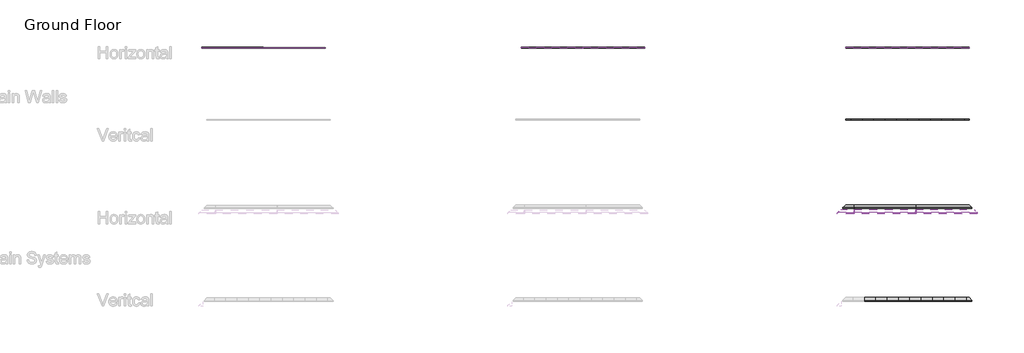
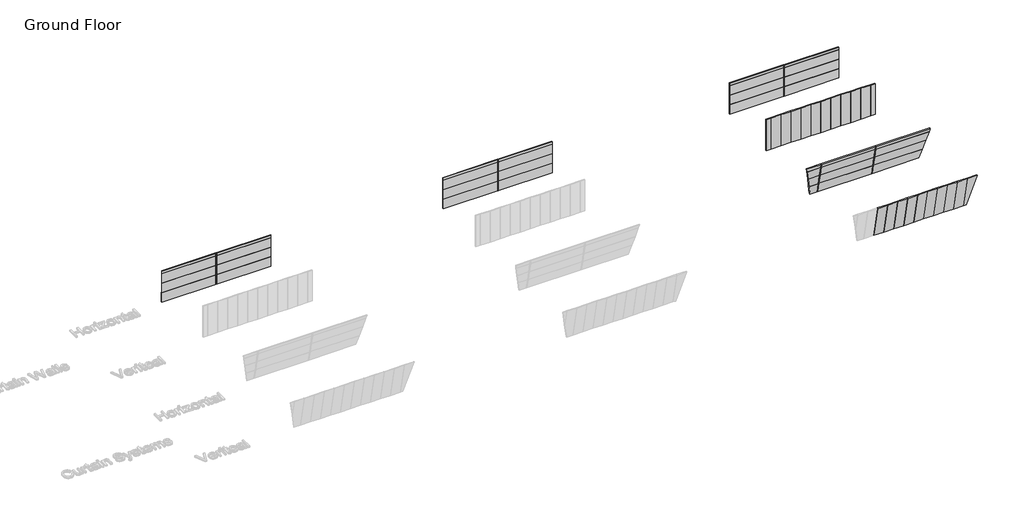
# One storey, part 2 of 8: 58 plates, 20 members.
"""IFC4 building model written with IfcOpenShell, lengths in millimetres."""

from ifc_helpers import new_model, si_unit, origin, place, context, project, spatial, transform, mapped, element, save
from components import rectangular_mullion_pi_mullion_20gap_50depth_70width_047f249b, rectangular_mullion_pi_mullion_20gap_50depth_70width_36eb7031, rectangular_mullion_pi_mullion_20gap_50depth_70width_d86b8fff, rectangular_mullion_pi_mullion_20gap_50depth_70width_81056362, system_panel_8846c3d6, system_panel_697a2945, system_panel_100212cb, system_panel_b5fc7392, system_panel_95cb4938, system_panel_555d0246, system_panel_780dca66, system_panel_5fcba945, system_panel_d5a0d648, system_panel_6c35d96b, system_panel_ded49ce0, system_panel_219c2210, system_panel_4048a440, system_panel_23496e82, system_panel_d2bda2eb, system_panel_ad9feff3, system_panel_d0f74044, system_panel_ee7158d6, system_panel_cab4ce0a, system_panel_4289257d

model = new_model("IFC4")

# Units and contexts
model_context = context("Model", 3, world=origin())
ifc_project = project(units=[si_unit("LENGTHUNIT", "METRE", prefix="MILLI")], contexts=[model_context])

# Site, building, storey
site = spatial("IfcSite", under=ifc_project)
building = spatial("IfcBuilding", under=site)
storey = spatial("IfcBuildingStorey", under=building, Name="Ground Floor", Elevation=0.0)

# Members
placement = place(None, origin())
rectangular_mullion_pi_mullion_20gap_50depth_70width_shape = rectangular_mullion_pi_mullion_20gap_50depth_70width_047f249b(model_context)
element("IfcMember", 1, ObjectType="Rectangular Mullion : PI-Mullion - 20Gap-50Depth-70Width", at=placement, inside=storey, context=model_context, shape_type="MappedRepresentation", body=[
    mapped(rectangular_mullion_pi_mullion_20gap_50depth_70width_shape, transform((17002.466571, 4866.6714822, 0.0), x_axis=(1.0, 0.0, 0.0), y_axis=(0.0, -1.0, 0.0), z_axis=(0.0, 0.0, -1.0))),
])
element("IfcMember", 2, ObjectType="Rectangular Mullion : PI-Mullion - 20Gap-50Depth-70Width", at=placement, inside=storey, context=model_context, shape_type="MappedRepresentation", body=[
    mapped(rectangular_mullion_pi_mullion_20gap_50depth_70width_shape, transform((-14497.533429, 4866.6714822, 0.0), x_axis=(1.0, 0.0, 0.0), y_axis=(0.0, -1.0, 0.0), z_axis=(0.0, 0.0, -1.0))),
])
element("IfcMember", 3, ObjectType="Rectangular Mullion : PI-Mullion - 20Gap-50Depth-70Width", at=placement, inside=storey, context=model_context, shape_type="MappedRepresentation", body=[
    mapped(rectangular_mullion_pi_mullion_20gap_50depth_70width_shape, transform((-45497.533429, 4866.6714822, 0.0), x_axis=(1.0, 0.0, 0.0), y_axis=(0.0, -1.0, 0.0), z_axis=(0.0, 0.0, -1.0))),
])
element("IfcMember", 4, ObjectType="Rectangular Mullion : PI-Mullion - 20Gap-50Depth-70Width", at=placement, inside=storey, context=model_context, shape_type="MappedRepresentation", body=[
    mapped(rectangular_mullion_pi_mullion_20gap_50depth_70width_shape, transform((17002.466571, 4866.6714822, 1100.0), x_axis=(1.0, 0.0, 0.0), y_axis=(0.0, -1.0, 0.0), z_axis=(0.0, 0.0, -1.0))),
])
element("IfcMember", 5, ObjectType="Rectangular Mullion : PI-Mullion - 20Gap-50Depth-70Width", at=placement, inside=storey, context=model_context, shape_type="MappedRepresentation", body=[
    mapped(rectangular_mullion_pi_mullion_20gap_50depth_70width_shape, transform((17002.466571, 4866.6714822, 2200.0), x_axis=(1.0, 0.0, 0.0), y_axis=(0.0, -1.0, 0.0), z_axis=(0.0, 0.0, -1.0))),
])
element("IfcMember", 6, ObjectType="Rectangular Mullion : PI-Mullion - 20Gap-50Depth-70Width", at=placement, inside=storey, context=model_context, shape_type="MappedRepresentation", body=[
    mapped(rectangular_mullion_pi_mullion_20gap_50depth_70width_shape, transform((-14497.533429, 4866.6714822, 1100.0), x_axis=(1.0, 0.0, 0.0), y_axis=(0.0, -1.0, 0.0), z_axis=(0.0, 0.0, -1.0))),
])
element("IfcMember", 7, ObjectType="Rectangular Mullion : PI-Mullion - 20Gap-50Depth-70Width", at=placement, inside=storey, context=model_context, shape_type="MappedRepresentation", body=[
    mapped(rectangular_mullion_pi_mullion_20gap_50depth_70width_shape, transform((-14497.533429, 4866.6714822, 2200.0), x_axis=(1.0, 0.0, 0.0), y_axis=(0.0, -1.0, 0.0), z_axis=(0.0, 0.0, -1.0))),
])
element("IfcMember", 8, ObjectType="Rectangular Mullion : PI-Mullion - 20Gap-50Depth-70Width", at=placement, inside=storey, context=model_context, shape_type="MappedRepresentation", body=[
    mapped(rectangular_mullion_pi_mullion_20gap_50depth_70width_shape, transform((-45497.533429, 4866.6714822, 1100.0), x_axis=(1.0, 0.0, 0.0), y_axis=(0.0, -1.0, 0.0), z_axis=(0.0, 0.0, -1.0))),
])
element("IfcMember", 9, ObjectType="Rectangular Mullion : PI-Mullion - 20Gap-50Depth-70Width", at=placement, inside=storey, context=model_context, shape_type="MappedRepresentation", body=[
    mapped(rectangular_mullion_pi_mullion_20gap_50depth_70width_shape, transform((-45497.533429, 4866.6714822, 2200.0), x_axis=(1.0, 0.0, 0.0), y_axis=(0.0, -1.0, 0.0), z_axis=(0.0, 0.0, -1.0))),
])
rectangular_mullion_pi_mullion_20gap_50depth_70width_2_shape = rectangular_mullion_pi_mullion_20gap_50depth_70width_36eb7031(model_context)
element("IfcMember", 10, ObjectType="Rectangular Mullion : PI-Mullion - 20Gap-50Depth-70Width", at=placement, inside=storey, context=model_context, shape_type="MappedRepresentation", body=[
    mapped(rectangular_mullion_pi_mullion_20gap_50depth_70width_2_shape, transform((-45497.533429, 4866.6714822, 3300.0), x_axis=(1.0, 0.0, 0.0), y_axis=(0.0, -1.0, 0.0), z_axis=(0.0, 0.0, -1.0))),
])
element("IfcMember", 11, ObjectType="Rectangular Mullion : PI-Mullion - 20Gap-50Depth-70Width", at=placement, inside=storey, context=model_context, shape_type="MappedRepresentation", body=[
    mapped(rectangular_mullion_pi_mullion_20gap_50depth_70width_2_shape, transform((-14497.533429, 4866.6714822, 3300.0), x_axis=(1.0, 0.0, 0.0), y_axis=(0.0, -1.0, 0.0), z_axis=(0.0, 0.0, -1.0))),
])
element("IfcMember", 12, ObjectType="Rectangular Mullion : PI-Mullion - 20Gap-50Depth-70Width", at=placement, inside=storey, context=model_context, shape_type="MappedRepresentation", body=[
    mapped(rectangular_mullion_pi_mullion_20gap_50depth_70width_2_shape, transform((17002.466571, 4866.6714822, 3300.0), x_axis=(1.0, 0.0, 0.0), y_axis=(0.0, -1.0, 0.0), z_axis=(0.0, 0.0, -1.0))),
])
rectangular_mullion_pi_mullion_20gap_50depth_70width_3_shape = rectangular_mullion_pi_mullion_20gap_50depth_70width_d86b8fff(model_context)
element("IfcMember", 13, ObjectType="Rectangular Mullion : PI-Mullion - 20Gap-50Depth-70Width", at=placement, inside=storey, context=model_context, shape_type="MappedRepresentation", body=[
    mapped(rectangular_mullion_pi_mullion_20gap_50depth_70width_3_shape, transform((17812.466571, -10929.4787062, 2152.1912103), x_axis=(-1.0, 0.0, 0.0), y_axis=(0.0, -0.9782687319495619, -0.2073409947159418), z_axis=(0.0, -0.2073409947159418, 0.9782687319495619))),
])
element("IfcMember", 14, ObjectType="Rectangular Mullion : PI-Mullion - 20Gap-50Depth-70Width", at=placement, inside=storey, context=model_context, shape_type="MappedRepresentation", body=[
    mapped(rectangular_mullion_pi_mullion_20gap_50depth_70width_3_shape, transform((11812.466571, -10929.4787062, 2152.1912103), x_axis=(-1.0, 0.0, 0.0), y_axis=(0.0, -0.9782687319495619, -0.2073409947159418), z_axis=(0.0, -0.2073409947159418, 0.9782687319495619))),
])
element("IfcMember", 15, ObjectType="Rectangular Mullion : PI-Mullion - 20Gap-50Depth-70Width", at=placement, inside=storey, context=model_context, shape_type="MappedRepresentation", body=[
    mapped(rectangular_mullion_pi_mullion_20gap_50depth_70width_3_shape, transform((17812.466571, -11157.5538004, 3228.2868154), x_axis=(-1.0, 0.0, 0.0), y_axis=(0.0, -0.978268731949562, -0.20734099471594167), z_axis=(0.0, -0.20734099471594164, 0.9782687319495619))),
])
element("IfcMember", 16, ObjectType="Rectangular Mullion : PI-Mullion - 20Gap-50Depth-70Width", at=placement, inside=storey, context=model_context, shape_type="MappedRepresentation", body=[
    mapped(rectangular_mullion_pi_mullion_20gap_50depth_70width_3_shape, transform((11812.466571, -11157.5538004, 3228.2868154), x_axis=(-1.0, 0.0, 0.0), y_axis=(0.0, -0.978268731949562, -0.20734099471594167), z_axis=(0.0, -0.20734099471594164, 0.9782687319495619))),
])
rectangular_mullion_pi_mullion_20gap_50depth_70width_4_shape = rectangular_mullion_pi_mullion_20gap_50depth_70width_81056362(model_context)
element("IfcMember", 17, ObjectType="Rectangular Mullion : PI-Mullion - 20Gap-50Depth-70Width", at=placement, inside=storey, context=model_context, shape_type="MappedRepresentation", body=[
    mapped(rectangular_mullion_pi_mullion_20gap_50depth_70width_4_shape, transform((17812.466571, -11236.337246, 3600.0), x_axis=(-1.0, 0.0, 0.0), y_axis=(0.0, -0.978268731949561, -0.20734099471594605), z_axis=(0.0, -0.20734099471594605, 0.978268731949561))),
])
element("IfcMember", 18, ObjectType="Rectangular Mullion : PI-Mullion - 20Gap-50Depth-70Width", at=placement, inside=storey, context=model_context, shape_type="MappedRepresentation", body=[
    mapped(rectangular_mullion_pi_mullion_20gap_50depth_70width_4_shape, transform((11812.466571, -11236.337246, 3600.0), x_axis=(-1.0, 0.0, 0.0), y_axis=(0.0, -0.978268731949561, -0.20734099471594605), z_axis=(0.0, -0.20734099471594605, 0.978268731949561))),
])
element("IfcMember", 19, ObjectType="Rectangular Mullion : PI-Mullion - 20Gap-50Depth-70Width", at=placement, inside=storey, context=model_context, shape_type="MappedRepresentation", body=[
    mapped(rectangular_mullion_pi_mullion_20gap_50depth_70width_3_shape, transform((17812.466571, -10701.403612, 1076.0956051), x_axis=(-1.0, 0.0, 0.0), y_axis=(0.0, -0.9782687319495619, -0.20734099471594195), z_axis=(0.0, -0.20734099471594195, 0.9782687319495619))),
])
element("IfcMember", 20, ObjectType="Rectangular Mullion : PI-Mullion - 20Gap-50Depth-70Width", at=placement, inside=storey, context=model_context, shape_type="MappedRepresentation", body=[
    mapped(rectangular_mullion_pi_mullion_20gap_50depth_70width_3_shape, transform((11812.466571, -10701.403612, 1076.0956051), x_axis=(-1.0, 0.0, 0.0), y_axis=(0.0, -0.9782687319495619, -0.20734099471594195), z_axis=(0.0, -0.20734099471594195, 0.9782687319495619))),
])

# Plates
system_panel_shape = system_panel_8846c3d6(model_context)
element("IfcPlate", 21, ObjectType="System Panel : Inspire 80mm Horizontal - Plain RHEA-PIR", at=placement, inside=storey, context=model_context, shape_type="MappedRepresentation", body=[
    mapped(system_panel_shape, transform((-17502.533429, 4866.6714822, 0.0), x_axis=(1.0, 0.0, 0.0), y_axis=(0.0, 1.0, 0.0), z_axis=(0.0, 0.0, 1.0))),
])
element("IfcPlate", 22, ObjectType="System Panel : Inspire 80mm Horizontal - Plain RHEA-PIR", at=placement, inside=storey, context=model_context, shape_type="MappedRepresentation", body=[
    mapped(system_panel_shape, transform((-17502.533429, 4866.6714822, 1100.0), x_axis=(1.0, 0.0, 0.0), y_axis=(0.0, 1.0, 0.0), z_axis=(0.0, 0.0, 1.0))),
])
element("IfcPlate", 23, ObjectType="System Panel : Inspire 80mm Horizontal - Plain RHEA-PIR", at=placement, inside=storey, context=model_context, shape_type="MappedRepresentation", body=[
    mapped(system_panel_shape, transform((-17502.533429, 4866.6714822, 2200.0), x_axis=(1.0, 0.0, 0.0), y_axis=(0.0, 1.0, 0.0), z_axis=(0.0, 0.0, 1.0))),
])
element("IfcPlate", 24, ObjectType="System Panel : Inspire 80mm Horizontal - Plain RHEA-PIR", at=placement, inside=storey, context=model_context, shape_type="MappedRepresentation", body=[
    mapped(system_panel_shape, transform((-11492.533429, 4866.6714822, 0.0), x_axis=(1.0, 0.0, 0.0), y_axis=(0.0, 1.0, 0.0), z_axis=(0.0, 0.0, 1.0))),
])
element("IfcPlate", 25, ObjectType="System Panel : Inspire 80mm Horizontal - Plain RHEA-PIR", at=placement, inside=storey, context=model_context, shape_type="MappedRepresentation", body=[
    mapped(system_panel_shape, transform((-11492.533429, 4866.6714822, 1100.0), x_axis=(1.0, 0.0, 0.0), y_axis=(0.0, 1.0, 0.0), z_axis=(0.0, 0.0, 1.0))),
])
element("IfcPlate", 26, ObjectType="System Panel : Inspire 80mm Horizontal - Plain RHEA-PIR", at=placement, inside=storey, context=model_context, shape_type="MappedRepresentation", body=[
    mapped(system_panel_shape, transform((-11492.533429, 4866.6714822, 2200.0), x_axis=(1.0, 0.0, 0.0), y_axis=(0.0, 1.0, 0.0), z_axis=(0.0, 0.0, 1.0))),
])
element("IfcPlate", 27, ObjectType="System Panel : Inspire 80mm Horizontal - Plain RHEA-PIR", at=placement, inside=storey, context=model_context, shape_type="MappedRepresentation", body=[
    mapped(system_panel_shape, transform((-48502.533429, 4866.6714822, 0.0), x_axis=(1.0, 0.0, 0.0), y_axis=(0.0, 1.0, 0.0), z_axis=(0.0, 0.0, 1.0))),
])
system_panel_2_shape = system_panel_697a2945(model_context)
element("IfcPlate", 28, ObjectType="System Panel : Inspire 50mm Horizontal - Plain RHEA-PIR", at=placement, inside=storey, context=model_context, shape_type="MappedRepresentation", body=[
    mapped(system_panel_2_shape, transform((-48502.533429, 4866.6714822, 1100.0), x_axis=(1.0, 0.0, 0.0), y_axis=(0.0, 1.0, 0.0), z_axis=(0.0, 0.0, 1.0))),
])
element("IfcPlate", 29, ObjectType="System Panel : Inspire 50mm Horizontal - Plain RHEA-PIR", at=placement, inside=storey, context=model_context, shape_type="MappedRepresentation", body=[
    mapped(system_panel_2_shape, transform((-48502.533429, 4866.6714822, 2200.0), x_axis=(1.0, 0.0, 0.0), y_axis=(0.0, 1.0, 0.0), z_axis=(0.0, 0.0, 1.0))),
])
element("IfcPlate", 30, ObjectType="System Panel : Inspire 50mm Horizontal - Plain RHEA-PIR", at=placement, inside=storey, context=model_context, shape_type="MappedRepresentation", body=[
    mapped(system_panel_2_shape, transform((-42492.533429, 4866.6714822, 0.0), x_axis=(1.0, 0.0, 0.0), y_axis=(0.0, 1.0, 0.0), z_axis=(0.0, 0.0, 1.0))),
])
element("IfcPlate", 31, ObjectType="System Panel : Inspire 50mm Horizontal - Plain RHEA-PIR", at=placement, inside=storey, context=model_context, shape_type="MappedRepresentation", body=[
    mapped(system_panel_2_shape, transform((-42492.533429, 4866.6714822, 1100.0), x_axis=(1.0, 0.0, 0.0), y_axis=(0.0, 1.0, 0.0), z_axis=(0.0, 0.0, 1.0))),
])
element("IfcPlate", 32, ObjectType="System Panel : Inspire 50mm Horizontal - Plain RHEA-PIR", at=placement, inside=storey, context=model_context, shape_type="MappedRepresentation", body=[
    mapped(system_panel_2_shape, transform((-42492.533429, 4866.6714822, 2200.0), x_axis=(1.0, 0.0, 0.0), y_axis=(0.0, 1.0, 0.0), z_axis=(0.0, 0.0, 1.0))),
])
system_panel_3_shape = system_panel_100212cb(model_context)
element("IfcPlate", 33, ObjectType="System Panel : Inspire 50mm Horizontal - Plain RHEA-PIR", at=placement, inside=storey, context=model_context, shape_type="MappedRepresentation", body=[
    mapped(system_panel_3_shape, transform((-48502.533429, 4866.6714822, 3300.0), x_axis=(1.0, 0.0, 0.0), y_axis=(0.0, 1.0, 0.0), z_axis=(0.0, 0.0, 1.0))),
])
element("IfcPlate", 34, ObjectType="System Panel : Inspire 50mm Horizontal - Plain RHEA-PIR", at=placement, inside=storey, context=model_context, shape_type="MappedRepresentation", body=[
    mapped(system_panel_3_shape, transform((-42492.533429, 4866.6714822, 3300.0), x_axis=(1.0, 0.0, 0.0), y_axis=(0.0, 1.0, 0.0), z_axis=(0.0, 0.0, 1.0))),
])
system_panel_4_shape = system_panel_b5fc7392(model_context)
element("IfcPlate", 35, ObjectType="System Panel : Inspire 80mm Horizontal - Plain RHEA-PIR", at=placement, inside=storey, context=model_context, shape_type="MappedRepresentation", body=[
    mapped(system_panel_4_shape, transform((-17502.533429, 4866.6714822, 3300.0), x_axis=(1.0, 0.0, 0.0), y_axis=(0.0, 1.0, 0.0), z_axis=(0.0, 0.0, 1.0))),
])
element("IfcPlate", 36, ObjectType="System Panel : Inspire 80mm Horizontal - Plain RHEA-PIR", at=placement, inside=storey, context=model_context, shape_type="MappedRepresentation", body=[
    mapped(system_panel_4_shape, transform((-11492.533429, 4866.6714822, 3300.0), x_axis=(1.0, 0.0, 0.0), y_axis=(0.0, 1.0, 0.0), z_axis=(0.0, 0.0, 1.0))),
])
system_panel_5_shape = system_panel_95cb4938(model_context)
element("IfcPlate", 37, ObjectType="System Panel : Inspire 100mm Horizontal - Plain RHEA-PIR", at=placement, inside=storey, context=model_context, shape_type="MappedRepresentation", body=[
    mapped(system_panel_5_shape, transform((13997.466571, 4866.6714822, 0.0), x_axis=(1.0, 0.0, 0.0), y_axis=(0.0, 1.0, 0.0), z_axis=(0.0, 0.0, 1.0))),
])
element("IfcPlate", 38, ObjectType="System Panel : Inspire 100mm Horizontal - Plain RHEA-PIR", at=placement, inside=storey, context=model_context, shape_type="MappedRepresentation", body=[
    mapped(system_panel_5_shape, transform((13997.466571, 4866.6714822, 1100.0), x_axis=(1.0, 0.0, 0.0), y_axis=(0.0, 1.0, 0.0), z_axis=(0.0, 0.0, 1.0))),
])
element("IfcPlate", 39, ObjectType="System Panel : Inspire 100mm Horizontal - Plain RHEA-PIR", at=placement, inside=storey, context=model_context, shape_type="MappedRepresentation", body=[
    mapped(system_panel_5_shape, transform((13997.466571, 4866.6714822, 2200.0), x_axis=(1.0, 0.0, 0.0), y_axis=(0.0, 1.0, 0.0), z_axis=(0.0, 0.0, 1.0))),
])
element("IfcPlate", 40, ObjectType="System Panel : Inspire 100mm Horizontal - Plain RHEA-PIR", at=placement, inside=storey, context=model_context, shape_type="MappedRepresentation", body=[
    mapped(system_panel_5_shape, transform((20007.466571, 4866.6714822, 0.0), x_axis=(1.0, 0.0, 0.0), y_axis=(0.0, 1.0, 0.0), z_axis=(0.0, 0.0, 1.0))),
])
element("IfcPlate", 41, ObjectType="System Panel : Inspire 100mm Horizontal - Plain RHEA-PIR", at=placement, inside=storey, context=model_context, shape_type="MappedRepresentation", body=[
    mapped(system_panel_5_shape, transform((20007.466571, 4866.6714822, 1100.0), x_axis=(1.0, 0.0, 0.0), y_axis=(0.0, 1.0, 0.0), z_axis=(0.0, 0.0, 1.0))),
])
element("IfcPlate", 42, ObjectType="System Panel : Inspire 100mm Horizontal - Plain RHEA-PIR", at=placement, inside=storey, context=model_context, shape_type="MappedRepresentation", body=[
    mapped(system_panel_5_shape, transform((20007.466571, 4866.6714822, 2200.0), x_axis=(1.0, 0.0, 0.0), y_axis=(0.0, 1.0, 0.0), z_axis=(0.0, 0.0, 1.0))),
])
system_panel_6_shape = system_panel_555d0246(model_context)
element("IfcPlate", 43, ObjectType="System Panel : Inspire 100mm Horizontal - Plain RHEA-PIR", at=placement, inside=storey, context=model_context, shape_type="MappedRepresentation", body=[
    mapped(system_panel_6_shape, transform((13997.466571, 4866.6714822, 3300.0), x_axis=(1.0, 0.0, 0.0), y_axis=(0.0, 1.0, 0.0), z_axis=(0.0, 0.0, 1.0))),
])
element("IfcPlate", 44, ObjectType="System Panel : Inspire 100mm Horizontal - Plain RHEA-PIR", at=placement, inside=storey, context=model_context, shape_type="MappedRepresentation", body=[
    mapped(system_panel_6_shape, transform((20007.466571, 4866.6714822, 3300.0), x_axis=(1.0, 0.0, 0.0), y_axis=(0.0, 1.0, 0.0), z_axis=(0.0, 0.0, 1.0))),
])
system_panel_7_shape = system_panel_780dca66(model_context)
element("IfcPlate", 45, ObjectType="System Panel : Inspire 100mm Vertical - Plain RHEA-PIR", at=placement, inside=storey, context=model_context, shape_type="MappedRepresentation", body=[
    mapped(system_panel_7_shape, transform((14252.466571, -2133.3285178, 0.0), x_axis=(1.0, 0.0, 0.0), y_axis=(0.0, 1.0, 0.0), z_axis=(0.0, 0.0, 1.0))),
])
element("IfcPlate", 46, ObjectType="System Panel : Inspire 100mm Vertical - Plain RHEA-PIR", at=placement, inside=storey, context=model_context, shape_type="MappedRepresentation", body=[
    mapped(system_panel_7_shape, transform((15352.466571, -2133.3285178, 0.0), x_axis=(1.0, 0.0, 0.0), y_axis=(0.0, 1.0, 0.0), z_axis=(0.0, 0.0, 1.0))),
])
element("IfcPlate", 47, ObjectType="System Panel : Inspire 100mm Vertical - Plain RHEA-PIR", at=placement, inside=storey, context=model_context, shape_type="MappedRepresentation", body=[
    mapped(system_panel_7_shape, transform((16452.466571, -2133.3285178, 0.0), x_axis=(1.0, 0.0, 0.0), y_axis=(0.0, 1.0, 0.0), z_axis=(0.0, 0.0, 1.0))),
])
element("IfcPlate", 48, ObjectType="System Panel : Inspire 100mm Vertical - Plain RHEA-PIR", at=placement, inside=storey, context=model_context, shape_type="MappedRepresentation", body=[
    mapped(system_panel_7_shape, transform((17552.466571, -2133.3285178, 0.0), x_axis=(1.0, 0.0, 0.0), y_axis=(0.0, 1.0, 0.0), z_axis=(0.0, 0.0, 1.0))),
])
element("IfcPlate", 49, ObjectType="System Panel : Inspire 100mm Vertical - Plain RHEA-PIR", at=placement, inside=storey, context=model_context, shape_type="MappedRepresentation", body=[
    mapped(system_panel_7_shape, transform((18652.466571, -2133.3285178, 0.0), x_axis=(1.0, 0.0, 0.0), y_axis=(0.0, 1.0, 0.0), z_axis=(0.0, 0.0, 1.0))),
])
element("IfcPlate", 50, ObjectType="System Panel : Inspire 100mm Vertical - Plain RHEA-PIR", at=placement, inside=storey, context=model_context, shape_type="MappedRepresentation", body=[
    mapped(system_panel_7_shape, transform((19752.466571, -2133.3285178, 0.0), x_axis=(1.0, 0.0, 0.0), y_axis=(0.0, 1.0, 0.0), z_axis=(0.0, 0.0, 1.0))),
])
element("IfcPlate", 51, ObjectType="System Panel : Inspire 100mm Vertical - Plain RHEA-PIR", at=placement, inside=storey, context=model_context, shape_type="MappedRepresentation", body=[
    mapped(system_panel_7_shape, transform((20852.466571, -2133.3285178, 0.0), x_axis=(1.0, 0.0, 0.0), y_axis=(0.0, 1.0, 0.0), z_axis=(0.0, 0.0, 1.0))),
])
element("IfcPlate", 52, ObjectType="System Panel : Inspire 100mm Vertical - Plain RHEA-PIR", at=placement, inside=storey, context=model_context, shape_type="MappedRepresentation", body=[
    mapped(system_panel_7_shape, transform((21952.466571, -2133.3285178, 0.0), x_axis=(1.0, 0.0, 0.0), y_axis=(0.0, 1.0, 0.0), z_axis=(0.0, 0.0, 1.0))),
])
element("IfcPlate", 53, ObjectType="System Panel : Inspire 100mm Vertical - Plain RHEA-PIR", at=placement, inside=storey, context=model_context, shape_type="MappedRepresentation", body=[
    mapped(system_panel_7_shape, transform((13152.466571, -2133.3285178, 0.0), x_axis=(1.0, 0.0, 0.0), y_axis=(0.0, 1.0, 0.0), z_axis=(0.0, 0.0, 1.0))),
])
element("IfcPlate", 54, ObjectType="System Panel : Inspire 100mm Vertical - Plain RHEA-PIR", at=placement, inside=storey, context=model_context, shape_type="MappedRepresentation", body=[
    mapped(system_panel_7_shape, transform((12052.466571, -2133.3285178, 0.0), x_axis=(1.0, 0.0, 0.0), y_axis=(0.0, 1.0, 0.0), z_axis=(0.0, 0.0, 1.0))),
])
system_panel_8_shape = system_panel_5fcba945(model_context)
element("IfcPlate", 55, ObjectType="System Panel : Inspire 100mm Vertical - Plain RHEA-PIR", at=placement, inside=storey, context=model_context, shape_type="MappedRepresentation", body=[
    mapped(system_panel_8_shape, transform((11252.466571, -2133.3285178, 0.0), x_axis=(1.0, 0.0, 0.0), y_axis=(0.0, 1.0, 0.0), z_axis=(0.0, 0.0, 1.0))),
])
element("IfcPlate", 56, ObjectType="System Panel : Inspire 100mm Vertical - Plain RHEA-PIR", at=placement, inside=storey, context=model_context, shape_type="MappedRepresentation", body=[
    mapped(system_panel_8_shape, transform((22752.466571, -2133.3285178, 0.0), x_axis=(1.0, 0.0, 0.0), y_axis=(0.0, 1.0, 0.0), z_axis=(0.0, 0.0, 1.0))),
])
system_panel_9_shape = system_panel_d5a0d648(model_context)
element("IfcPlate", 57, ObjectType="System Panel : Inspire 100mm Horizontal - Plain RHEA-PIR", at=placement, inside=storey, context=model_context, shape_type="MappedRepresentation", body=[
    mapped(system_panel_9_shape, transform((20532.0327494, -10473.3285178, 0.0), x_axis=(-1.0, 0.0, 0.0), y_axis=(0.0, -0.978268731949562, -0.20734099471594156), z_axis=(0.0, -0.20734099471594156, 0.978268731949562))),
])
system_panel_10_shape = system_panel_6c35d96b(model_context)
element("IfcPlate", 58, ObjectType="System Panel : Inspire 100mm Horizontal - Plain RHEA-PIR", at=placement, inside=storey, context=model_context, shape_type="MappedRepresentation", body=[
    mapped(system_panel_10_shape, transform((14812.466571, -10473.3285178, 0.0), x_axis=(-1.0, 0.0, 0.0), y_axis=(0.0, -0.978268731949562, -0.20734099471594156), z_axis=(0.0, -0.20734099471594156, 0.978268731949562))),
])
element("IfcPlate", 59, ObjectType="System Panel : Inspire 100mm Horizontal - Plain RHEA-PIR", at=placement, inside=storey, context=model_context, shape_type="MappedRepresentation", body=[
    mapped(system_panel_10_shape, transform((14812.466571, -10701.403612, 1076.0956051), x_axis=(-1.0, 0.0, 0.0), y_axis=(0.0, -0.978268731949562, -0.20734099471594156), z_axis=(0.0, -0.20734099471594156, 0.978268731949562))),
])
element("IfcPlate", 60, ObjectType="System Panel : Inspire 100mm Horizontal - Plain RHEA-PIR", at=placement, inside=storey, context=model_context, shape_type="MappedRepresentation", body=[
    mapped(system_panel_10_shape, transform((14812.466571, -10929.4787062, 2152.1912103), x_axis=(-1.0, 0.0, 0.0), y_axis=(0.0, -0.978268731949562, -0.20734099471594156), z_axis=(0.0, -0.20734099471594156, 0.978268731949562))),
])
system_panel_11_shape = system_panel_ded49ce0(model_context)
element("IfcPlate", 61, ObjectType="System Panel : Inspire 100mm Horizontal - Plain RHEA-PIR", at=placement, inside=storey, context=model_context, shape_type="MappedRepresentation", body=[
    mapped(system_panel_11_shape, transform((11282.9003927, -10473.3285178, 0.0), x_axis=(-1.0, 0.0, 0.0), y_axis=(0.0, -0.978268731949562, -0.20734099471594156), z_axis=(0.0, -0.20734099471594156, 0.978268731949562))),
])
system_panel_12_shape = system_panel_219c2210(model_context)
element("IfcPlate", 62, ObjectType="System Panel : Inspire 100mm Horizontal - Plain RHEA-PIR", at=placement, inside=storey, context=model_context, shape_type="MappedRepresentation", body=[
    mapped(system_panel_12_shape, transform((20651.5989277, -10701.403612, 1076.0956051), x_axis=(-1.0, 0.0, 0.0), y_axis=(0.0, -0.978268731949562, -0.20734099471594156), z_axis=(0.0, -0.20734099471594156, 0.978268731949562))),
])
system_panel_13_shape = system_panel_4048a440(model_context)
element("IfcPlate", 63, ObjectType="System Panel : Inspire 100mm Horizontal - Plain RHEA-PIR", at=placement, inside=storey, context=model_context, shape_type="MappedRepresentation", body=[
    mapped(system_panel_13_shape, transform((11163.3342144, -10701.403612, 1076.0956051), x_axis=(-1.0, 0.0, 0.0), y_axis=(0.0, -0.978268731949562, -0.20734099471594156), z_axis=(0.0, -0.20734099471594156, 0.978268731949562))),
])
system_panel_14_shape = system_panel_23496e82(model_context)
element("IfcPlate", 64, ObjectType="System Panel : Inspire 100mm Horizontal - Plain RHEA-PIR", at=placement, inside=storey, context=model_context, shape_type="MappedRepresentation", body=[
    mapped(system_panel_14_shape, transform((20771.1651061, -10929.4787062, 2152.1912103), x_axis=(-1.0, 0.0, 0.0), y_axis=(0.0, -0.978268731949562, -0.20734099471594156), z_axis=(0.0, -0.20734099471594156, 0.978268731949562))),
])
system_panel_15_shape = system_panel_d2bda2eb(model_context)
element("IfcPlate", 65, ObjectType="System Panel : Inspire 100mm Horizontal - Plain RHEA-PIR", at=placement, inside=storey, context=model_context, shape_type="MappedRepresentation", body=[
    mapped(system_panel_15_shape, transform((11043.768036, -10929.4787062, 2152.1912103), x_axis=(-1.0, 0.0, 0.0), y_axis=(0.0, -0.978268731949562, -0.20734099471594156), z_axis=(0.0, -0.20734099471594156, 0.978268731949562))),
])
system_panel_16_shape = system_panel_ad9feff3(model_context)
element("IfcPlate", 66, ObjectType="System Panel : Inspire 100mm Horizontal - Plain RHEA-PIR", at=placement, inside=storey, context=model_context, shape_type="MappedRepresentation", body=[
    mapped(system_panel_16_shape, transform((20812.466571, -11157.5538004, 3228.2868154), x_axis=(-1.0, 0.0, 0.0), y_axis=(0.0, -0.978268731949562, -0.20734099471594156), z_axis=(0.0, -0.20734099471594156, 0.978268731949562))),
])
system_panel_17_shape = system_panel_d0f74044(model_context)
element("IfcPlate", 67, ObjectType="System Panel : Inspire 100mm Horizontal - Plain RHEA-PIR", at=placement, inside=storey, context=model_context, shape_type="MappedRepresentation", body=[
    mapped(system_panel_17_shape, transform((14812.466571, -11157.5538004, 3228.2868154), x_axis=(-1.0, 0.0, 0.0), y_axis=(0.0, -0.978268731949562, -0.20734099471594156), z_axis=(0.0, -0.20734099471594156, 0.978268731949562))),
])
system_panel_18_shape = system_panel_ee7158d6(model_context)
element("IfcPlate", 68, ObjectType="System Panel : Inspire 100mm Horizontal - Plain RHEA-PIR", at=placement, inside=storey, context=model_context, shape_type="MappedRepresentation", body=[
    mapped(system_panel_18_shape, transform((11002.466571, -11157.5538004, 3228.2868154), x_axis=(-1.0, 0.0, 0.0), y_axis=(0.0, -0.978268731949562, -0.20734099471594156), z_axis=(0.0, -0.20734099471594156, 0.978268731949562))),
])
system_panel_19_shape = system_panel_cab4ce0a(model_context)
element("IfcPlate", 69, ObjectType="System Panel : Inspire 100mm Vertical - Plain RHEA-PIR", at=placement, inside=storey, context=model_context, shape_type="MappedRepresentation", body=[
    mapped(system_panel_19_shape, transform((23252.466571, -19473.3285178, 0.0), x_axis=(-1.0, 0.0, 0.0), y_axis=(0.0, -0.978268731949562, -0.20734099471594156), z_axis=(0.0, -0.20734099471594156, 0.978268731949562))),
])
system_panel_20_shape = system_panel_4289257d(model_context)
element("IfcPlate", 70, ObjectType="System Panel : Inspire 100mm Vertical - Plain RHEA-PIR", at=placement, inside=storey, context=model_context, shape_type="MappedRepresentation", body=[
    mapped(system_panel_20_shape, transform((22152.466571, -19473.3285178, 0.0), x_axis=(-1.0, 0.0, 0.0), y_axis=(0.0, -0.978268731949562, -0.20734099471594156), z_axis=(0.0, -0.20734099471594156, 0.978268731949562))),
])
element("IfcPlate", 71, ObjectType="System Panel : Inspire 100mm Vertical - Plain RHEA-PIR", at=placement, inside=storey, context=model_context, shape_type="MappedRepresentation", body=[
    mapped(system_panel_20_shape, transform((21052.466571, -19473.3285178, 0.0), x_axis=(-1.0, 0.0, 0.0), y_axis=(0.0, -0.978268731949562, -0.20734099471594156), z_axis=(0.0, -0.20734099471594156, 0.978268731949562))),
])
element("IfcPlate", 72, ObjectType="System Panel : Inspire 100mm Vertical - Plain RHEA-PIR", at=placement, inside=storey, context=model_context, shape_type="MappedRepresentation", body=[
    mapped(system_panel_20_shape, transform((19952.466571, -19473.3285178, 0.0), x_axis=(-1.0, 0.0, 0.0), y_axis=(0.0, -0.978268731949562, -0.20734099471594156), z_axis=(0.0, -0.20734099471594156, 0.978268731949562))),
])
element("IfcPlate", 73, ObjectType="System Panel : Inspire 100mm Vertical - Plain RHEA-PIR", at=placement, inside=storey, context=model_context, shape_type="MappedRepresentation", body=[
    mapped(system_panel_20_shape, transform((18852.466571, -19473.3285178, 0.0), x_axis=(-1.0, 0.0, 0.0), y_axis=(0.0, -0.978268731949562, -0.20734099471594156), z_axis=(0.0, -0.20734099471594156, 0.978268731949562))),
])
element("IfcPlate", 74, ObjectType="System Panel : Inspire 100mm Vertical - Plain RHEA-PIR", at=placement, inside=storey, context=model_context, shape_type="MappedRepresentation", body=[
    mapped(system_panel_20_shape, transform((17752.466571, -19473.3285178, 0.0), x_axis=(-1.0, 0.0, 0.0), y_axis=(0.0, -0.978268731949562, -0.20734099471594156), z_axis=(0.0, -0.20734099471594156, 0.978268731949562))),
])
element("IfcPlate", 75, ObjectType="System Panel : Inspire 100mm Vertical - Plain RHEA-PIR", at=placement, inside=storey, context=model_context, shape_type="MappedRepresentation", body=[
    mapped(system_panel_20_shape, transform((16652.466571, -19473.3285178, 0.0), x_axis=(-1.0, 0.0, 0.0), y_axis=(0.0, -0.978268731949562, -0.20734099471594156), z_axis=(0.0, -0.20734099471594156, 0.978268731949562))),
])
element("IfcPlate", 76, ObjectType="System Panel : Inspire 100mm Vertical - Plain RHEA-PIR", at=placement, inside=storey, context=model_context, shape_type="MappedRepresentation", body=[
    mapped(system_panel_20_shape, transform((15552.466571, -19473.3285178, 0.0), x_axis=(-1.0, 0.0, 0.0), y_axis=(0.0, -0.978268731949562, -0.20734099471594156), z_axis=(0.0, -0.20734099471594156, 0.978268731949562))),
])
element("IfcPlate", 77, ObjectType="System Panel : Inspire 100mm Vertical - Plain RHEA-PIR", at=placement, inside=storey, context=model_context, shape_type="MappedRepresentation", body=[
    mapped(system_panel_20_shape, transform((14452.466571, -19473.3285178, 0.0), x_axis=(-1.0, 0.0, 0.0), y_axis=(0.0, -0.978268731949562, -0.20734099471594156), z_axis=(0.0, -0.20734099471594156, 0.978268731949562))),
])
element("IfcPlate", 78, ObjectType="System Panel : Inspire 100mm Vertical - Plain RHEA-PIR", at=placement, inside=storey, context=model_context, shape_type="MappedRepresentation", body=[
    mapped(system_panel_20_shape, transform((13352.466571, -19473.3285178, 0.0), x_axis=(-1.0, 0.0, 0.0), y_axis=(0.0, -0.978268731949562, -0.20734099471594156), z_axis=(0.0, -0.20734099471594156, 0.978268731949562))),
])

save(model, "model.ifc")
